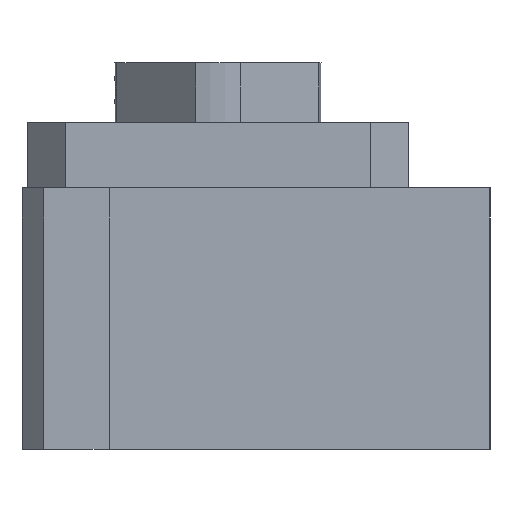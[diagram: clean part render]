
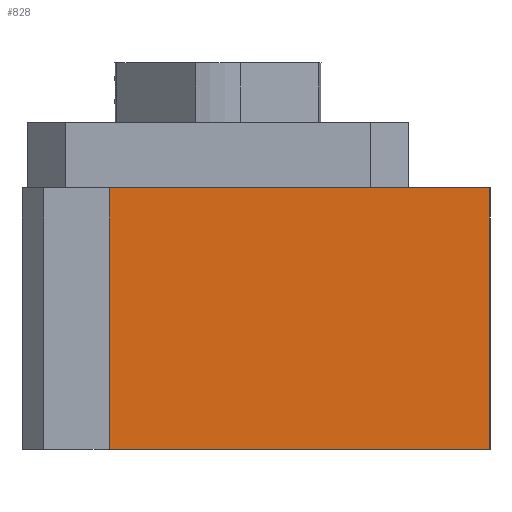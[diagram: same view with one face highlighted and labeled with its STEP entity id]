
A CAD part, left-side view. The second image highlights one B-rep face of the part: STEP entity #828.
In plain terms, the highlighted planar face has unit normal (-1, 0, 0).
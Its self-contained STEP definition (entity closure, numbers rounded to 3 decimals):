
#34=LINE($,#1371,#104);
#73=LINE($,#1490,#143);
#74=LINE($,#1492,#144);
#75=LINE($,#1493,#145);
#104=VECTOR($,#986,35.);
#143=VECTOR($,#1119,24.);
#144=VECTOR($,#1120,35.);
#145=VECTOR($,#1121,24.);
#185=FACE_OUTER_BOUND($,#323,.T.);
#323=EDGE_LOOP($,(#707,#708,#709,#710));
#403=VERTEX_POINT($,#1368);
#404=VERTEX_POINT($,#1370);
#437=VERTEX_POINT($,#1489);
#438=VERTEX_POINT($,#1491);
#483=EDGE_CURVE($,#404,#403,#34,.T.);
#535=EDGE_CURVE($,#403,#437,#73,.T.);
#536=EDGE_CURVE($,#438,#437,#74,.T.);
#537=EDGE_CURVE($,#404,#438,#75,.T.);
#707=ORIENTED_EDGE($,*,*,#483,.T.);
#708=ORIENTED_EDGE($,*,*,#535,.T.);
#709=ORIENTED_EDGE($,*,*,#536,.F.);
#710=ORIENTED_EDGE($,*,*,#537,.F.);
#779=PLANE($,#908);
#828=ADVANCED_FACE($,(#185),#779,.T.);
#908=AXIS2_PLACEMENT_3D($,#1488,#1117,#1118);
#986=DIRECTION($,(0.,-1.,0.));
#1117=DIRECTION('center_axis',(-1.,0.,0.));
#1118=DIRECTION('ref_axis',(0.,-1.,0.));
#1119=DIRECTION($,(0.,0.,1.));
#1120=DIRECTION($,(0.,-1.,0.));
#1121=DIRECTION($,(0.,0.,1.));
#1368=CARTESIAN_POINT('',(0.,0.,0.));
#1370=CARTESIAN_POINT('',(0.,35.,0.));
#1371=CARTESIAN_POINT($,(0.,35.,0.));
#1488=CARTESIAN_POINT('Origin',(0.,35.,0.));
#1489=CARTESIAN_POINT('',(0.,0.,24.));
#1490=CARTESIAN_POINT($,(0.,0.,0.));
#1491=CARTESIAN_POINT('',(0.,35.,24.));
#1492=CARTESIAN_POINT($,(0.,35.,24.));
#1493=CARTESIAN_POINT($,(0.,35.,0.));
